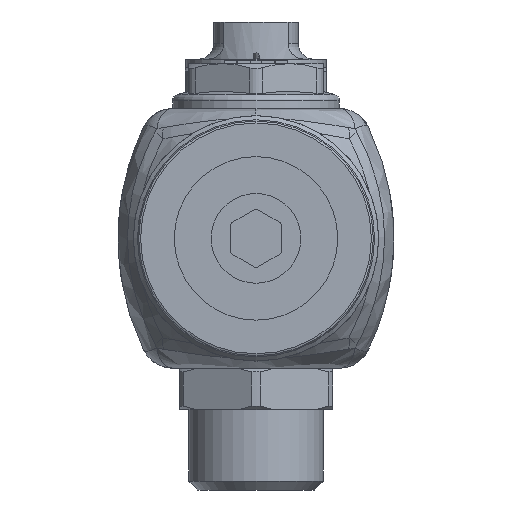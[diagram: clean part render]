
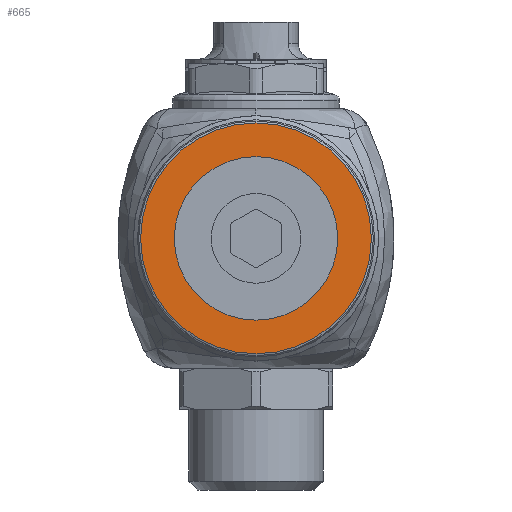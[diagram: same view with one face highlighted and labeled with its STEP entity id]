
A CAD part, front view. The second image highlights one B-rep face of the part: STEP entity #665.
In plain terms, the highlighted planar face has unit normal (0, -1, 0).
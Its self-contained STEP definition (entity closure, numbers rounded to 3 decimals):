
#665=ADVANCED_FACE('',(#17756,#17758),#17760,.F.);
#17756=FACE_BOUND('',#17757,.T.);
#17757=EDGE_LOOP('',(#23744));
#17758=FACE_BOUND('',#17759,.T.);
#17759=EDGE_LOOP('',(#23745));
#17760=PLANE('',#17761);
#17761=AXIS2_PLACEMENT_3D('',#17762,#17763,#17764);
#17762=CARTESIAN_POINT('',(0.,-395.75,0.));
#17763=DIRECTION('',(0.,1.,0.));
#17764=DIRECTION('',(-1.,0.,0.));
#23744=ORIENTED_EDGE('',*,*,#28251,.T.);
#23745=ORIENTED_EDGE('',*,*,#28274,.T.);
#28251=EDGE_CURVE('',#32272,#32272,#32273,.T.);
#28274=EDGE_CURVE('',#32307,#32307,#32308,.F.);
#32272=VERTEX_POINT('',#54964);
#32273=CIRCLE('',#54965,18.);
#32307=VERTEX_POINT('',#55047);
#32308=CIRCLE('',#55048,12.75);
#54964=CARTESIAN_POINT('',(18.,-395.75,0.));
#54965=AXIS2_PLACEMENT_3D('',#54966,#54967,#54968);
#54966=CARTESIAN_POINT('',(0.,-395.75,0.));
#54967=DIRECTION('',(0.,-1.,0.));
#54968=DIRECTION('',(1.,0.,0.));
#55047=CARTESIAN_POINT('',(12.75,-395.75,0.));
#55048=AXIS2_PLACEMENT_3D('',#55049,#55050,#55051);
#55049=CARTESIAN_POINT('',(0.,-395.75,0.));
#55050=DIRECTION('',(0.,-1.,0.));
#55051=DIRECTION('',(1.,0.,0.));
